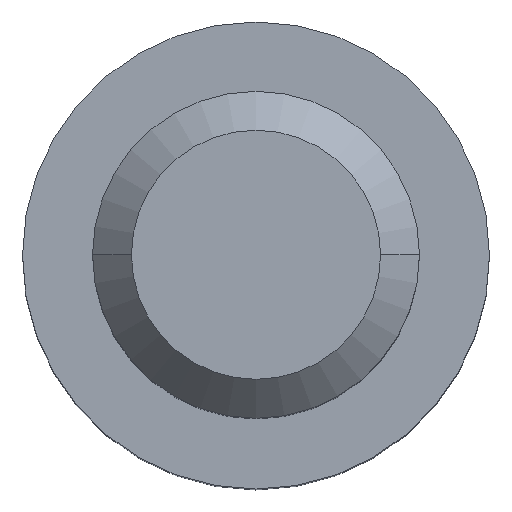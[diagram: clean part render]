
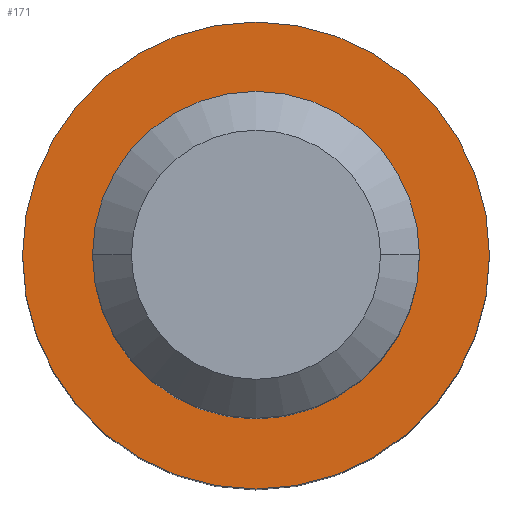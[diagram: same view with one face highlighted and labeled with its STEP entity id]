
A CAD part, top view. The second image highlights one B-rep face of the part: STEP entity #171.
In plain terms, the highlighted planar face has unit normal (0, 0, 1).
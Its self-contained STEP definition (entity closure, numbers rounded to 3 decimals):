
#7 = VERTEX_POINT ( 'NONE', #52 ) ;
#10 = DIRECTION ( 'NONE',  ( 1., 0., 0. ) ) ;
#14 = CARTESIAN_POINT ( 'NONE',  ( -2.1, 0., -5.6 ) ) ;
#28 = CARTESIAN_POINT ( 'NONE',  ( 0., 0., -5.6 ) ) ;
#38 = DIRECTION ( 'NONE',  ( 0., 0., 1. ) ) ;
#41 = CARTESIAN_POINT ( 'NONE',  ( 0., 0., -5.6 ) ) ;
#47 = CIRCLE ( 'NONE', #84, 3. ) ;
#52 = CARTESIAN_POINT ( 'NONE',  ( -3., 0., -5.6 ) ) ;
#53 = ORIENTED_EDGE ( 'NONE', *, *, #105, .T. ) ;
#84 = AXIS2_PLACEMENT_3D ( 'NONE', #298, #38, #294 ) ;
#86 = FACE_BOUND ( 'NONE', #189, .T. ) ;
#87 = PLANE ( 'NONE',  #160 ) ;
#88 = CARTESIAN_POINT ( 'NONE',  ( 3., 0., -5.6 ) ) ;
#98 = VERTEX_POINT ( 'NONE', #176 ) ;
#99 = CIRCLE ( 'NONE', #366, 2.1 ) ;
#102 = DIRECTION ( 'NONE',  ( 1., 0., 0. ) ) ;
#105 = EDGE_CURVE ( 'NONE', #7, #124, #47, .T. ) ;
#124 = VERTEX_POINT ( 'NONE', #88 ) ;
#129 = AXIS2_PLACEMENT_3D ( 'NONE', #28, #375, #102 ) ;
#152 = DIRECTION ( 'NONE',  ( 1., 0., 0. ) ) ;
#160 = AXIS2_PLACEMENT_3D ( 'NONE', #258, #377, #267 ) ;
#171 = ADVANCED_FACE ( 'NONE', ( #86, #355 ), #87, .F. ) ;
#176 = CARTESIAN_POINT ( 'NONE',  ( 2.1, 0., -5.6 ) ) ;
#179 = ORIENTED_EDGE ( 'NONE', *, *, #283, .F. ) ;
#188 = CIRCLE ( 'NONE', #129, 3. ) ;
#189 = EDGE_LOOP ( 'NONE', ( #179, #376 ) ) ;
#200 = AXIS2_PLACEMENT_3D ( 'NONE', #41, #319, #152 ) ;
#210 = EDGE_LOOP ( 'NONE', ( #296, #53 ) ) ;
#217 = EDGE_CURVE ( 'NONE', #306, #98, #270, .T. ) ;
#258 = CARTESIAN_POINT ( 'NONE',  ( 0., 3., -5.6 ) ) ;
#267 = DIRECTION ( 'NONE',  ( -1., 0., 0. ) ) ;
#269 = CARTESIAN_POINT ( 'NONE',  ( 0., 0., -5.6 ) ) ;
#270 = CIRCLE ( 'NONE', #200, 2.1 ) ;
#283 = EDGE_CURVE ( 'NONE', #98, #306, #99, .T. ) ;
#294 = DIRECTION ( 'NONE',  ( 1., 0., 0. ) ) ;
#296 = ORIENTED_EDGE ( 'NONE', *, *, #332, .T. ) ;
#298 = CARTESIAN_POINT ( 'NONE',  ( 0., 0., -5.6 ) ) ;
#306 = VERTEX_POINT ( 'NONE', #14 ) ;
#319 = DIRECTION ( 'NONE',  ( 0., 0., 1. ) ) ;
#332 = EDGE_CURVE ( 'NONE', #124, #7, #188, .T. ) ;
#355 = FACE_OUTER_BOUND ( 'NONE', #210, .T. ) ;
#364 = DIRECTION ( 'NONE',  ( 0., 0., 1. ) ) ;
#366 = AXIS2_PLACEMENT_3D ( 'NONE', #269, #364, #10 ) ;
#375 = DIRECTION ( 'NONE',  ( 0., 0., 1. ) ) ;
#376 = ORIENTED_EDGE ( 'NONE', *, *, #217, .F. ) ;
#377 = DIRECTION ( 'NONE',  ( 0., 0., -1. ) ) ;
